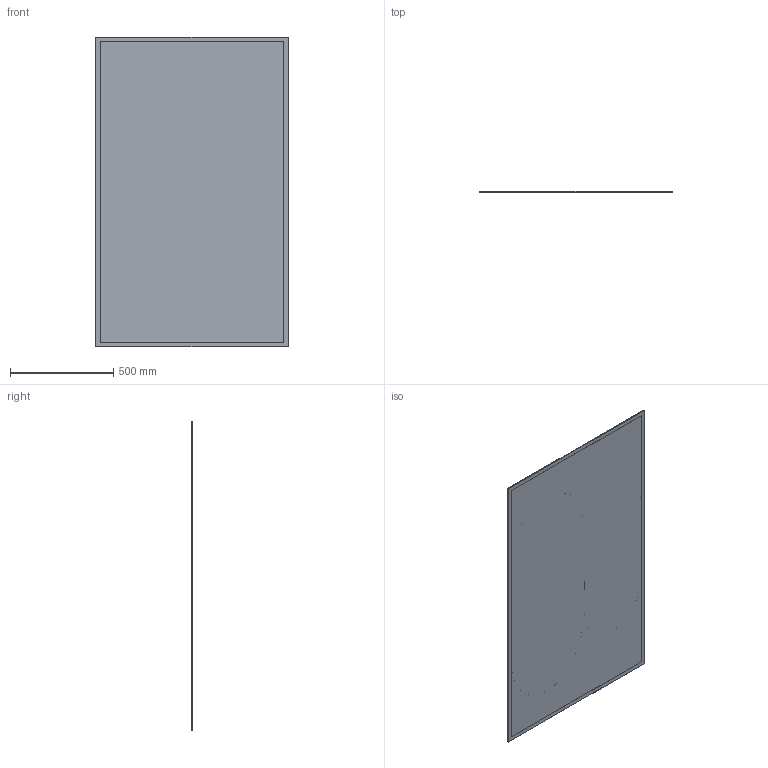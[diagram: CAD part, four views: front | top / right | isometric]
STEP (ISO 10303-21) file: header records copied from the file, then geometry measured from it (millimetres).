
FILE_DESCRIPTION(/* description */ (''),/* implementation_level */ '2;1');
FILE_NAME(/* name */ 'SQUEEZ~1',/* time_stamp */ '2024-08-19T14:48:29+02:00',/* author */ (''),/* organization */ (''),/* preprocessor_version */ 'ST-DEVELOPER v16.5',/* originating_system */ '',/* authorisation */ '');
FILE_SCHEMA (('AUTOMOTIVE_DESIGN'));
Length unit declared in the file: millimetre
Products named in the file (1): Document
Bounding box: 930 x 6 x 1500 mm (x, y, z)
Volume: 7433002.9 mm3; surface area: 4653952.4 mm2
Topology: 4 solids, 4 shells, 32 faces, 76 edges, 52 vertices
Faces by surface type: plane 20, bspline 12
Entity records: 1076 total; most frequent: CARTESIAN_POINT 511, ORIENTED_EDGE 144, B_SPLINE_CURVE_WITH_KNOTS 76, EDGE_CURVE 72, VERTEX_POINT 48, EDGE_LOOP 34, ADVANCED_FACE 32, FACE_OUTER_BOUND 32
